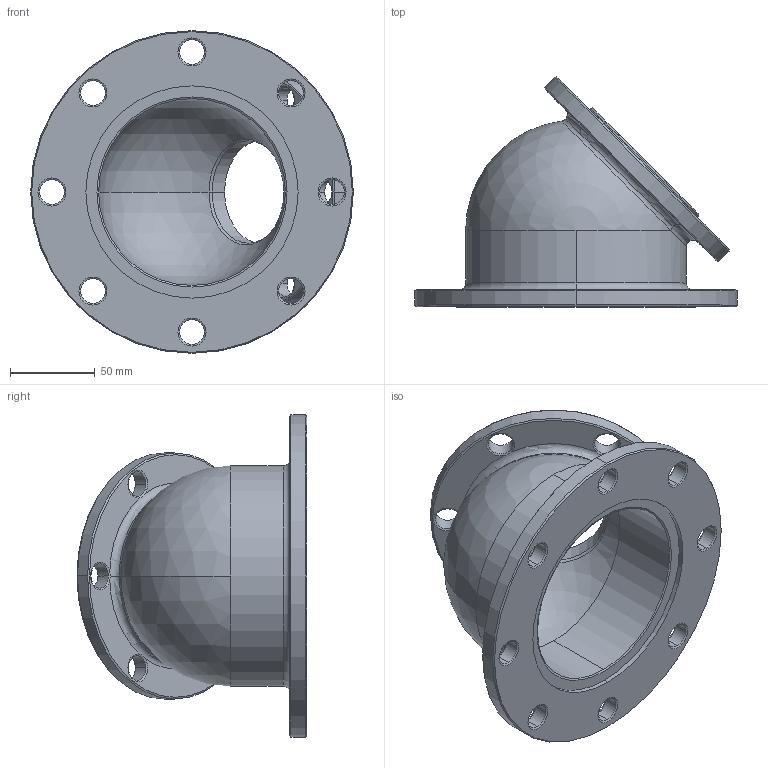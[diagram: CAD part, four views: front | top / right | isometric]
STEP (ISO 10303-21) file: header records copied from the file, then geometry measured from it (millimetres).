
FILE_DESCRIPTION (( 'STEP AP203' ), '1' );
FILE_NAME ('Housing-01.STEP', '2022-11-17T16:34:25', ( '' ), ( '' ), 'SwSTEP 2.0', 'SolidWorks 2022', '' );
FILE_SCHEMA (( 'CONFIG_CONTROL_DESIGN' ));
Length unit declared in the file: millimetre
Products named in the file (1): Housing-01
Bounding box: 190 x 135.43 x 190 mm (x, y, z)
Volume: 611028 mm3; surface area: 132151.6 mm2
Topology: 1 solids, 1 shells, 141 faces, 339 edges, 194 vertices
Faces by surface type: cone 75, cylinder 42, bspline 8, torus 6, plane 6, sphere 4
Entity records: 5086 total; most frequent: CARTESIAN_POINT 1657, DIRECTION 763, ORIENTED_EDGE 670, EDGE_CURVE 335, AXIS2_PLACEMENT_3D 326, VERTEX_POINT 194, CIRCLE 192, EDGE_LOOP 169
